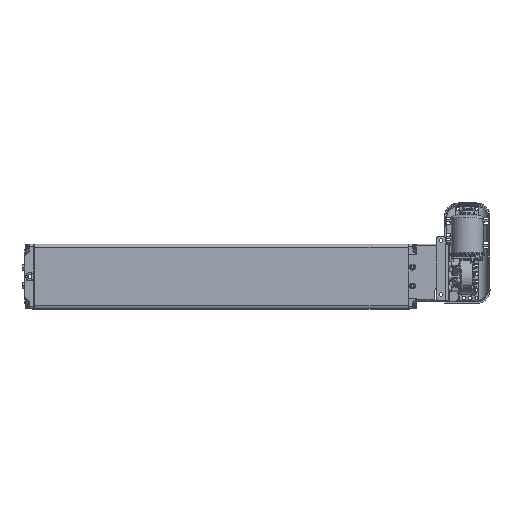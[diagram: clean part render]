
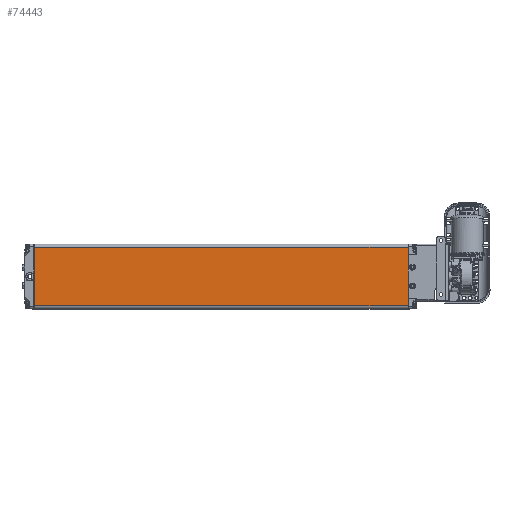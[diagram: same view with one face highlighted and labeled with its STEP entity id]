
A CAD part, top view. The second image highlights one B-rep face of the part: STEP entity #74443.
In plain terms, the highlighted planar face has unit normal (0, 0, 1).
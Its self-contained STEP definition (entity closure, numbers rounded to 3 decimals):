
#7083=LINE('',#125693,#10106);
#7084=LINE('',#125696,#10107);
#7085=LINE('',#125698,#10108);
#7086=LINE('',#125700,#10109);
#10106=VECTOR('',#86867,1000.);
#10107=VECTOR('',#86868,1000.);
#10108=VECTOR('',#86869,1000.);
#10109=VECTOR('',#86870,1000.);
#17808=ORIENTED_EDGE('',*,*,#34867,.T.);
#17809=ORIENTED_EDGE('',*,*,#34868,.T.);
#17810=ORIENTED_EDGE('',*,*,#34869,.T.);
#17811=ORIENTED_EDGE('',*,*,#34870,.T.);
#34867=EDGE_CURVE('',#43622,#43623,#7083,.F.);
#34868=EDGE_CURVE('',#43623,#43624,#7084,.T.);
#34869=EDGE_CURVE('',#43624,#43625,#7085,.T.);
#34870=EDGE_CURVE('',#43625,#43622,#7086,.F.);
#43622=VERTEX_POINT('',#125694);
#43623=VERTEX_POINT('',#125695);
#43624=VERTEX_POINT('',#125697);
#43625=VERTEX_POINT('',#125699);
#52034=EDGE_LOOP('',(#17808,#17809,#17810,#17811));
#56631=FACE_BOUND('',#52034,.T.);
#60386=PLANE('',#78938);
#74443=ADVANCED_FACE('',(#56631),#60386,.T.);
#78938=AXIS2_PLACEMENT_3D('',#125692,#86865,#86866);
#86865=DIRECTION('',(0.,0.,1.));
#86866=DIRECTION('',(1.,0.,0.));
#86867=DIRECTION('',(0.,-1.,0.));
#86868=DIRECTION('',(-1.,0.,0.));
#86869=DIRECTION('',(0.,-1.,0.));
#86870=DIRECTION('',(-1.,0.,0.));
#125692=CARTESIAN_POINT('',(60.,692.5,30.));
#125693=CARTESIAN_POINT('',(54.,692.5,30.));
#125694=CARTESIAN_POINT('',(54.,0.5,30.));
#125695=CARTESIAN_POINT('',(54.,692.,30.));
#125696=CARTESIAN_POINT('',(60.,692.,30.));
#125697=CARTESIAN_POINT('',(-54.,692.,30.));
#125698=CARTESIAN_POINT('',(-54.,692.5,30.));
#125699=CARTESIAN_POINT('',(-54.,0.5,30.));
#125700=CARTESIAN_POINT('',(54.,0.5,30.));
